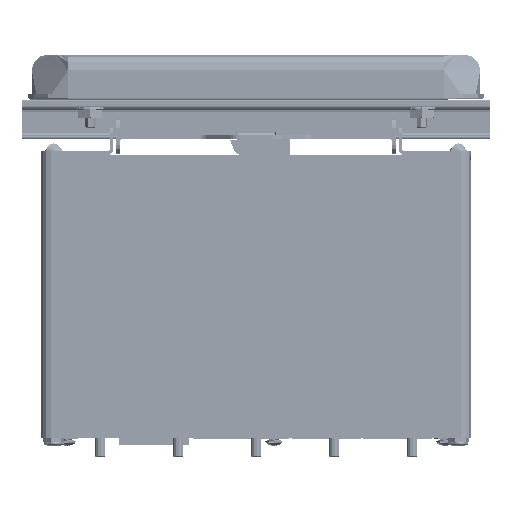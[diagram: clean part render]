
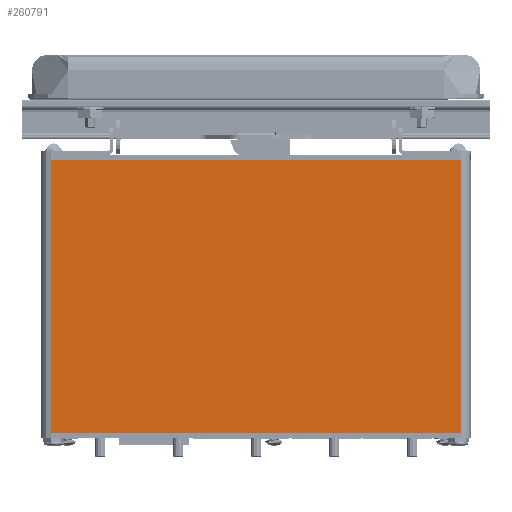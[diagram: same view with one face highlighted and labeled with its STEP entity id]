
A CAD part, front view. The second image highlights one B-rep face of the part: STEP entity #260791.
In plain terms, the highlighted planar face has unit normal (0, -1, 0).
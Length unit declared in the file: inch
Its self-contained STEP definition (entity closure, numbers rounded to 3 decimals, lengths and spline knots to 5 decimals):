
#1747 = PLANE ( 'NONE',  #459396 ) ;
#5807 = VERTEX_POINT ( 'NONE', #106027 ) ;
#14066 = VERTEX_POINT ( 'NONE', #175716 ) ;
#16393 = EDGE_LOOP ( 'NONE', ( #216227, #104944, #135250, #374832 ) ) ;
#21245 = DIRECTION ( 'NONE',  ( 1., 0., 0. ) ) ;
#37787 = DIRECTION ( 'NONE',  ( 0., 0., 1. ) ) ;
#40556 = DIRECTION ( 'NONE',  ( 0., -1., 0. ) ) ;
#58537 = VECTOR ( 'NONE', #385408, 39.37008 ) ;
#63220 = CARTESIAN_POINT ( 'NONE',  ( -2.625, -1.6875, -3.5 ) ) ;
#104944 = ORIENTED_EDGE ( 'NONE', *, *, #368481, .F. ) ;
#106027 = CARTESIAN_POINT ( 'NONE',  ( 2.625, -1.6875, -3.5 ) ) ;
#125011 = VERTEX_POINT ( 'NONE', #261397 ) ;
#135250 = ORIENTED_EDGE ( 'NONE', *, *, #308819, .F. ) ;
#137386 = VECTOR ( 'NONE', #396574, 39.37008 ) ;
#164890 = LINE ( 'NONE', #190170, #137386 ) ;
#175716 = CARTESIAN_POINT ( 'NONE',  ( 2.625, -1.6875, 0. ) ) ;
#178140 = VECTOR ( 'NONE', #21245, 39.37008 ) ;
#180305 = DIRECTION ( 'NONE',  ( 1., 0., 0. ) ) ;
#190170 = CARTESIAN_POINT ( 'NONE',  ( 2.625, -1.6875, -3.5 ) ) ;
#211554 = LINE ( 'NONE', #342460, #178140 ) ;
#216227 = ORIENTED_EDGE ( 'NONE', *, *, #459778, .T. ) ;
#260791 = ADVANCED_FACE ( 'NONE', ( #398734 ), #1747, .T. ) ;
#261397 = CARTESIAN_POINT ( 'NONE',  ( -2.625, -1.6875, 0. ) ) ;
#285750 = CARTESIAN_POINT ( 'NONE',  ( 0., -1.6875, -3.5 ) ) ;
#289121 = CARTESIAN_POINT ( 'NONE',  ( -2.625, -1.6875, -3.5 ) ) ;
#299280 = VERTEX_POINT ( 'NONE', #63220 ) ;
#299941 = VECTOR ( 'NONE', #37787, 39.37008 ) ;
#308819 = EDGE_CURVE ( 'NONE', #125011, #14066, #211554, .T. ) ;
#324775 = LINE ( 'NONE', #425715, #58537 ) ;
#342460 = CARTESIAN_POINT ( 'NONE',  ( -2.625, -1.6875, 0. ) ) ;
#368481 = EDGE_CURVE ( 'NONE', #14066, #5807, #164890, .T. ) ;
#374832 = ORIENTED_EDGE ( 'NONE', *, *, #444186, .F. ) ;
#383222 = LINE ( 'NONE', #289121, #299941 ) ;
#385408 = DIRECTION ( 'NONE',  ( 1., 0., 0. ) ) ;
#396574 = DIRECTION ( 'NONE',  ( 0., 0., -1. ) ) ;
#398734 = FACE_OUTER_BOUND ( 'NONE', #16393, .T. ) ;
#425715 = CARTESIAN_POINT ( 'NONE',  ( -2.625, -1.6875, -3.5 ) ) ;
#444186 = EDGE_CURVE ( 'NONE', #299280, #125011, #383222, .T. ) ;
#459396 = AXIS2_PLACEMENT_3D ( 'NONE', #285750, #40556, #180305 ) ;
#459778 = EDGE_CURVE ( 'NONE', #299280, #5807, #324775, .T. ) ;
